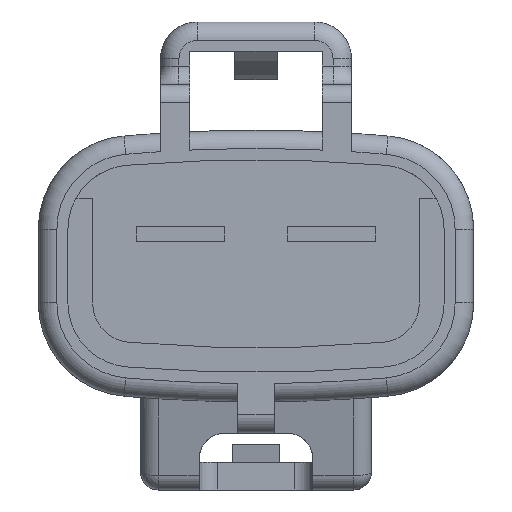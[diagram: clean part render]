
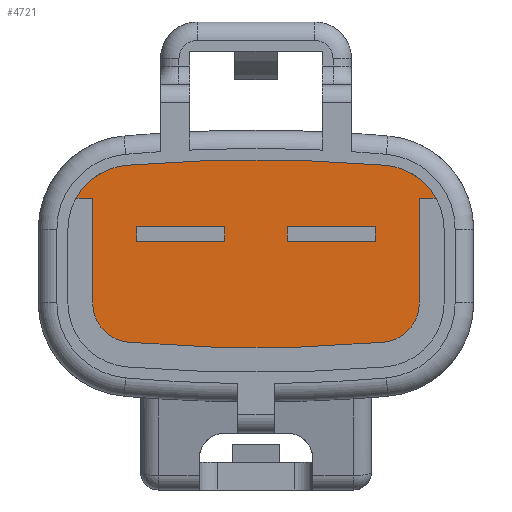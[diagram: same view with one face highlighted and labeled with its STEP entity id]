
A CAD part, left-side view. The second image highlights one B-rep face of the part: STEP entity #4721.
In plain terms, the highlighted planar face has unit normal (-1, 0, 0).
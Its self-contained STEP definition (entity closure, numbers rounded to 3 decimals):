
#3659=CARTESIAN_POINT('Axis2P3D Location',(0.,-2.65,0.257)) ;
#3663=CARTESIAN_POINT('Vertex',(0.,-5.714,1.95)) ;
#3665=CARTESIAN_POINT('Vertex',(0.,-2.953,3.744)) ;
#3723=CARTESIAN_POINT('Axis2P3D Location',(0.,4.1,-77.45)) ;
#3727=CARTESIAN_POINT('Vertex',(0.,11.153,3.744)) ;
#3760=CARTESIAN_POINT('Vertex',(0.,13.914,1.95)) ;
#3763=CARTESIAN_POINT('Axis2P3D Location',(0.,10.85,0.257)) ;
#4589=CARTESIAN_POINT('Axis2P3D Location',(0.,0.,0.)) ;
#4594=CARTESIAN_POINT('Line Origine',(0.,13.457,1.95)) ;
#4598=CARTESIAN_POINT('Vertex',(0.,13.,1.95)) ;
#4601=CARTESIAN_POINT('Line Origine',(0.,13.,-0.904)) ;
#4605=CARTESIAN_POINT('Vertex',(0.,13.,-3.757)) ;
#4608=CARTESIAN_POINT('Axis2P3D Location',(0.,10.85,-3.757)) ;
#4612=CARTESIAN_POINT('Vertex',(0.,11.036,-5.899)) ;
#4615=CARTESIAN_POINT('Axis2P3D Location',(0.,4.1,73.9)) ;
#4619=CARTESIAN_POINT('Vertex',(0.,-2.836,-5.899)) ;
#4622=CARTESIAN_POINT('Axis2P3D Location',(0.,-2.65,-3.757)) ;
#4626=CARTESIAN_POINT('Vertex',(0.,-4.8,-3.757)) ;
#4629=CARTESIAN_POINT('Line Origine',(0.,-4.8,-0.904)) ;
#4633=CARTESIAN_POINT('Vertex',(0.,-4.8,1.95)) ;
#4636=CARTESIAN_POINT('Line Origine',(0.,-5.257,1.95)) ;
#4653=CARTESIAN_POINT('Line Origine',(0.,-2.4,0.)) ;
#4657=CARTESIAN_POINT('Vertex',(0.,-2.4,-0.4)) ;
#4659=CARTESIAN_POINT('Vertex',(0.,-2.4,0.4)) ;
#4662=CARTESIAN_POINT('Line Origine',(0.,0.,-0.4)) ;
#4666=CARTESIAN_POINT('Vertex',(0.,2.4,-0.4)) ;
#4669=CARTESIAN_POINT('Line Origine',(0.,2.4,0.)) ;
#4673=CARTESIAN_POINT('Vertex',(0.,2.4,0.4)) ;
#4676=CARTESIAN_POINT('Line Origine',(0.,0.,0.4)) ;
#4687=CARTESIAN_POINT('Line Origine',(0.,5.8,0.)) ;
#4691=CARTESIAN_POINT('Vertex',(0.,5.8,-0.4)) ;
#4693=CARTESIAN_POINT('Vertex',(0.,5.8,0.4)) ;
#4696=CARTESIAN_POINT('Line Origine',(0.,8.2,-0.4)) ;
#4700=CARTESIAN_POINT('Vertex',(0.,10.6,-0.4)) ;
#4703=CARTESIAN_POINT('Line Origine',(0.,10.6,0.)) ;
#4707=CARTESIAN_POINT('Vertex',(0.,10.6,0.4)) ;
#4710=CARTESIAN_POINT('Line Origine',(0.,8.2,0.4)) ;
#3660=DIRECTION('Axis2P3D Direction',(-1.,0.,0.)) ;
#3724=DIRECTION('Axis2P3D Direction',(-1.,0.,0.)) ;
#3764=DIRECTION('Axis2P3D Direction',(-1.,0.,0.)) ;
#4590=DIRECTION('Axis2P3D Direction',(-1.,0.,0.)) ;
#4591=DIRECTION('Axis2P3D XDirection',(-0.,-1.,-0.)) ;
#4595=DIRECTION('Vector Direction',(0.,1.,0.)) ;
#4602=DIRECTION('Vector Direction',(0.,0.,-1.)) ;
#4609=DIRECTION('Axis2P3D Direction',(-1.,0.,0.)) ;
#4616=DIRECTION('Axis2P3D Direction',(-1.,0.,0.)) ;
#4623=DIRECTION('Axis2P3D Direction',(-1.,0.,0.)) ;
#4630=DIRECTION('Vector Direction',(0.,0.,-1.)) ;
#4637=DIRECTION('Vector Direction',(0.,1.,0.)) ;
#4654=DIRECTION('Vector Direction',(0.,0.,1.)) ;
#4663=DIRECTION('Vector Direction',(0.,1.,0.)) ;
#4670=DIRECTION('Vector Direction',(0.,0.,-1.)) ;
#4677=DIRECTION('Vector Direction',(0.,-1.,0.)) ;
#4688=DIRECTION('Vector Direction',(0.,0.,1.)) ;
#4697=DIRECTION('Vector Direction',(0.,1.,0.)) ;
#4704=DIRECTION('Vector Direction',(0.,0.,-1.)) ;
#4711=DIRECTION('Vector Direction',(0.,-1.,0.)) ;
#3661=AXIS2_PLACEMENT_3D('Circle Axis2P3D',#3659,#3660,$) ;
#3725=AXIS2_PLACEMENT_3D('Circle Axis2P3D',#3723,#3724,$) ;
#3765=AXIS2_PLACEMENT_3D('Circle Axis2P3D',#3763,#3764,$) ;
#4592=AXIS2_PLACEMENT_3D('Plane Axis2P3D',#4589,#4590,#4591) ;
#4610=AXIS2_PLACEMENT_3D('Circle Axis2P3D',#4608,#4609,$) ;
#4617=AXIS2_PLACEMENT_3D('Circle Axis2P3D',#4615,#4616,$) ;
#4624=AXIS2_PLACEMENT_3D('Circle Axis2P3D',#4622,#4623,$) ;
#4642=ORIENTED_EDGE('',*,*,#3667,.T.) ;
#4643=ORIENTED_EDGE('',*,*,#3729,.T.) ;
#4644=ORIENTED_EDGE('',*,*,#3767,.T.) ;
#4645=ORIENTED_EDGE('',*,*,#4600,.F.) ;
#4646=ORIENTED_EDGE('',*,*,#4607,.T.) ;
#4647=ORIENTED_EDGE('',*,*,#4614,.T.) ;
#4648=ORIENTED_EDGE('',*,*,#4621,.T.) ;
#4649=ORIENTED_EDGE('',*,*,#4628,.T.) ;
#4650=ORIENTED_EDGE('',*,*,#4635,.F.) ;
#4651=ORIENTED_EDGE('',*,*,#4640,.F.) ;
#4682=ORIENTED_EDGE('',*,*,#4661,.F.) ;
#4683=ORIENTED_EDGE('',*,*,#4668,.F.) ;
#4684=ORIENTED_EDGE('',*,*,#4675,.F.) ;
#4685=ORIENTED_EDGE('',*,*,#4680,.F.) ;
#4716=ORIENTED_EDGE('',*,*,#4695,.F.) ;
#4717=ORIENTED_EDGE('',*,*,#4702,.F.) ;
#4718=ORIENTED_EDGE('',*,*,#4709,.F.) ;
#4719=ORIENTED_EDGE('',*,*,#4714,.F.) ;
#4686=FACE_BOUND('',#4681,.T.) ;
#4720=FACE_BOUND('',#4715,.T.) ;
#4596=VECTOR('Line Direction',#4595,1.) ;
#4603=VECTOR('Line Direction',#4602,1.) ;
#4631=VECTOR('Line Direction',#4630,1.) ;
#4638=VECTOR('Line Direction',#4637,1.) ;
#4655=VECTOR('Line Direction',#4654,1.) ;
#4664=VECTOR('Line Direction',#4663,1.) ;
#4671=VECTOR('Line Direction',#4670,1.) ;
#4678=VECTOR('Line Direction',#4677,1.) ;
#4689=VECTOR('Line Direction',#4688,1.) ;
#4698=VECTOR('Line Direction',#4697,1.) ;
#4705=VECTOR('Line Direction',#4704,1.) ;
#4712=VECTOR('Line Direction',#4711,1.) ;
#4721=ADVANCED_FACE('\X2\FF8AFF9FFF70FF82\X0\ \X2\FF8EFF9EFF83FF9EFF68FF70\X0\',(#4652,#4686,#4720),#4593,.T.) ;
#3662=CIRCLE('generated circle',#3661,3.5) ;
#3726=CIRCLE('generated circle',#3725,81.5) ;
#3766=CIRCLE('generated circle',#3765,3.5) ;
#4611=CIRCLE('generated circle',#4610,2.15) ;
#4618=CIRCLE('generated circle',#4617,80.1) ;
#4625=CIRCLE('generated circle',#4624,2.15) ;
#3667=EDGE_CURVE('',#3664,#3666,#3662,.T.) ;
#3729=EDGE_CURVE('',#3666,#3728,#3726,.T.) ;
#3767=EDGE_CURVE('',#3728,#3761,#3766,.T.) ;
#4600=EDGE_CURVE('',#4599,#3761,#4597,.T.) ;
#4607=EDGE_CURVE('',#4599,#4606,#4604,.T.) ;
#4614=EDGE_CURVE('',#4606,#4613,#4611,.T.) ;
#4621=EDGE_CURVE('',#4613,#4620,#4618,.T.) ;
#4628=EDGE_CURVE('',#4620,#4627,#4625,.T.) ;
#4635=EDGE_CURVE('',#4634,#4627,#4632,.T.) ;
#4640=EDGE_CURVE('',#3664,#4634,#4639,.T.) ;
#4661=EDGE_CURVE('',#4658,#4660,#4656,.T.) ;
#4668=EDGE_CURVE('',#4667,#4658,#4665,.F.) ;
#4675=EDGE_CURVE('',#4674,#4667,#4672,.T.) ;
#4680=EDGE_CURVE('',#4660,#4674,#4679,.F.) ;
#4695=EDGE_CURVE('',#4692,#4694,#4690,.T.) ;
#4702=EDGE_CURVE('',#4701,#4692,#4699,.F.) ;
#4709=EDGE_CURVE('',#4708,#4701,#4706,.T.) ;
#4714=EDGE_CURVE('',#4694,#4708,#4713,.F.) ;
#4641=EDGE_LOOP('',(#4642,#4643,#4644,#4645,#4646,#4647,#4648,#4649,#4650,#4651)) ;
#4681=EDGE_LOOP('',(#4682,#4683,#4684,#4685)) ;
#4715=EDGE_LOOP('',(#4716,#4717,#4718,#4719)) ;
#4652=FACE_OUTER_BOUND('',#4641,.T.) ;
#4597=LINE('Line',#4594,#4596) ;
#4604=LINE('Line',#4601,#4603) ;
#4632=LINE('Line',#4629,#4631) ;
#4639=LINE('Line',#4636,#4638) ;
#4656=LINE('Line',#4653,#4655) ;
#4665=LINE('Line',#4662,#4664) ;
#4672=LINE('Line',#4669,#4671) ;
#4679=LINE('Line',#4676,#4678) ;
#4690=LINE('Line',#4687,#4689) ;
#4699=LINE('Line',#4696,#4698) ;
#4706=LINE('Line',#4703,#4705) ;
#4713=LINE('Line',#4710,#4712) ;
#4593=PLANE('',#4592) ;
#3664=VERTEX_POINT('',#3663) ;
#3666=VERTEX_POINT('',#3665) ;
#3728=VERTEX_POINT('',#3727) ;
#3761=VERTEX_POINT('',#3760) ;
#4599=VERTEX_POINT('',#4598) ;
#4606=VERTEX_POINT('',#4605) ;
#4613=VERTEX_POINT('',#4612) ;
#4620=VERTEX_POINT('',#4619) ;
#4627=VERTEX_POINT('',#4626) ;
#4634=VERTEX_POINT('',#4633) ;
#4658=VERTEX_POINT('',#4657) ;
#4660=VERTEX_POINT('',#4659) ;
#4667=VERTEX_POINT('',#4666) ;
#4674=VERTEX_POINT('',#4673) ;
#4692=VERTEX_POINT('',#4691) ;
#4694=VERTEX_POINT('',#4693) ;
#4701=VERTEX_POINT('',#4700) ;
#4708=VERTEX_POINT('',#4707) ;
